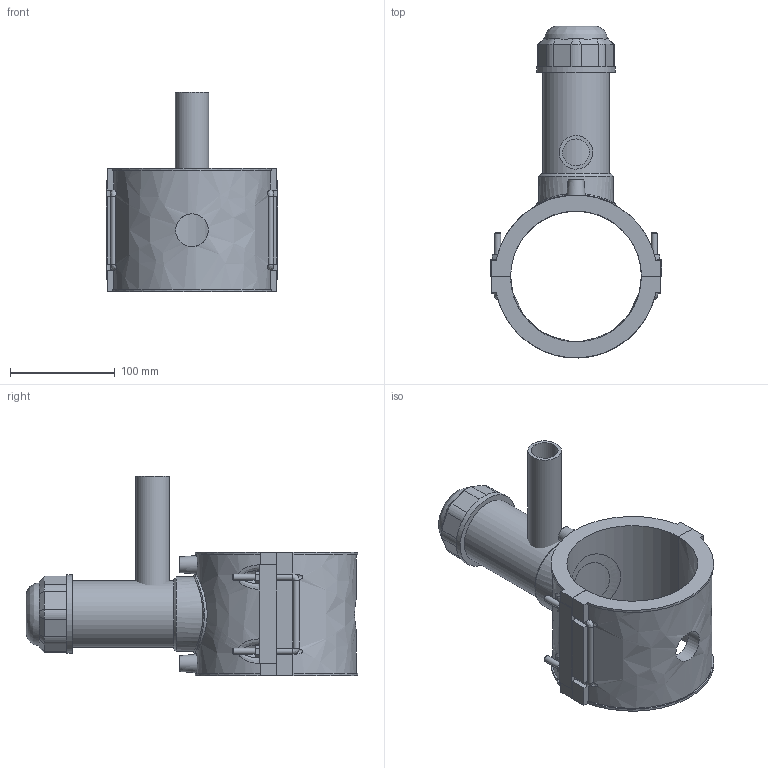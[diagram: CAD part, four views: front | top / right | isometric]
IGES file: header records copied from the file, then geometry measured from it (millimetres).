
Global section: file name: 4963P4125032; native system: Autodesk Inventor 2019; preprocessor: unknown; author: KIM; date: 20220317.112833; units: millimetre
Bounding box: 164 x 317.23 x 191 mm (x, y, z)
Volume: 1128660.7 mm3; surface area: 231221.7 mm2
Topology: 3 solids, 5 shells, 201 faces, 517 edges, 333 vertices
Faces by surface type: bspline 201
